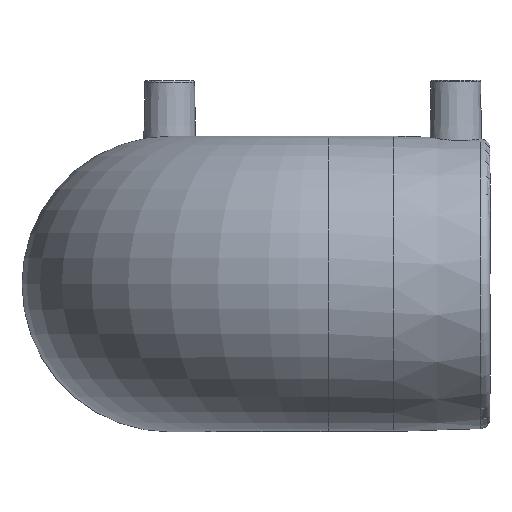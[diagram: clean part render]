
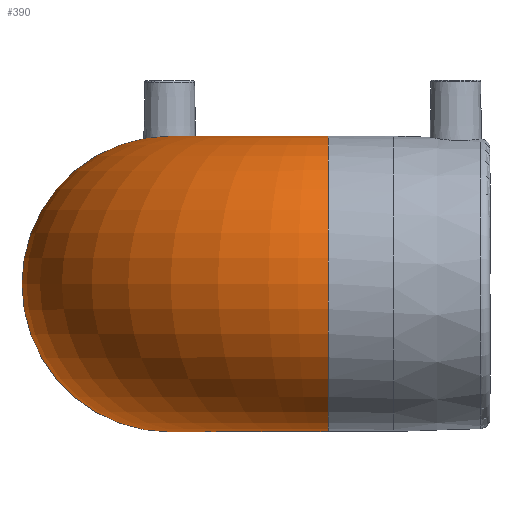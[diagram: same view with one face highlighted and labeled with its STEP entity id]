
A CAD part, top view. The second image highlights one B-rep face of the part: STEP entity #390.
In plain terms, the highlighted toroidal (fillet/blend) face has major radius 51 mm and minor radius 47.5 mm.
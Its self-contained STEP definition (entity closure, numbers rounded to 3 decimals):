
#47=TOROIDAL_SURFACE('',#450,51.,47.5);
#58=CIRCLE('',#440,47.5);
#60=CIRCLE('',#444,47.5);
#109=ORIENTED_EDGE('',*,*,#176,.T.);
#110=ORIENTED_EDGE('',*,*,#174,.F.);
#174=EDGE_CURVE('',#213,#213,#58,.F.);
#176=EDGE_CURVE('',#215,#215,#60,.F.);
#213=VERTEX_POINT('',#708);
#215=VERTEX_POINT('',#714);
#270=EDGE_LOOP('',(#109));
#271=EDGE_LOOP('',(#110));
#333=FACE_BOUND('',#270,.T.);
#334=FACE_BOUND('',#271,.T.);
#390=ADVANCED_FACE('',(#333,#334),#47,.T.);
#440=AXIS2_PLACEMENT_3D('',#707,#518,#519);
#444=AXIS2_PLACEMENT_3D('',#713,#526,#527);
#450=AXIS2_PLACEMENT_3D('',#748,#538,#539);
#518=DIRECTION('',(-1.,0.,0.));
#519=DIRECTION('',(0.,0.,-1.));
#526=DIRECTION('',(0.,0.,-1.));
#527=DIRECTION('',(1.,0.,0.));
#538=DIRECTION('',(0.,1.,0.));
#539=DIRECTION('',(0.,0.,1.));
#707=CARTESIAN_POINT('',(51.,0.,103.));
#708=CARTESIAN_POINT('',(51.,0.,55.5));
#713=CARTESIAN_POINT('',(0.,0.,52.));
#714=CARTESIAN_POINT('',(47.5,0.,52.));
#748=CARTESIAN_POINT('',(51.,0.,52.));
